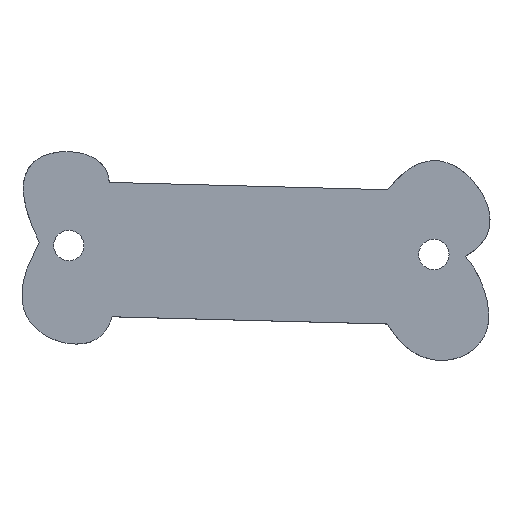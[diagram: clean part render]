
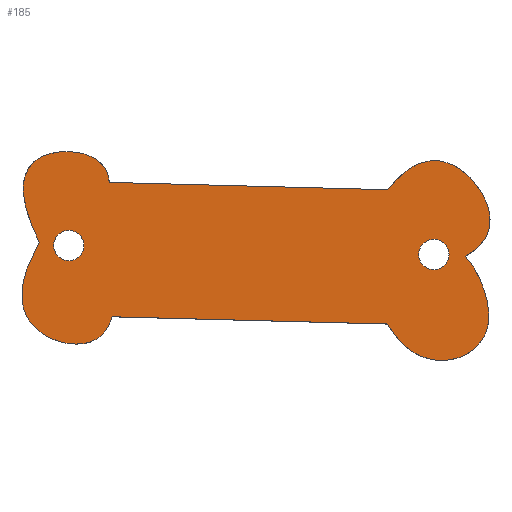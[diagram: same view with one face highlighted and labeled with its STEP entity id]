
A CAD part, top view. The second image highlights one B-rep face of the part: STEP entity #185.
In plain terms, the highlighted planar face has unit normal (0, 0, 1).
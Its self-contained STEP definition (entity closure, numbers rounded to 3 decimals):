
#15=FACE_BOUND('',#54,.T.);
#16=FACE_BOUND('',#55,.T.);
#21=PLANE('',#209);
#24=(
BOUNDED_CURVE()
B_SPLINE_CURVE(5,(#323,#324,#325,#326,#327,#328,#329,#330,#331,#332,#333,
#334,#335,#336,#337,#338,#339,#340,#341,#342),.UNSPECIFIED.,.F.,.F.)
B_SPLINE_CURVE_WITH_KNOTS((6,1,1,1,1,1,1,1,1,1,1,1,1,1,1,6),(-1.,-0.933,
-0.867,-0.8,-0.733,-0.667,-0.6,-0.533,
-0.467,-0.4,-0.333,-0.267,-0.2,-0.133,
-0.067,0.),.UNSPECIFIED.)
CURVE()
GEOMETRIC_REPRESENTATION_ITEM()
RATIONAL_B_SPLINE_CURVE((1.,1.,1.,1.,1.,1.,1.,1.,1.,1.,1.,1.,1.,1.,1.,1.,
1.,1.,1.,1.))
REPRESENTATION_ITEM('')
);
#26=(
BOUNDED_CURVE()
B_SPLINE_CURVE(5,(#412,#413,#414,#415,#416,#417,#418,#419,#420,#421,#422,
#423,#424,#425,#426,#427,#428,#429,#430,#431),.UNSPECIFIED.,.F.,.F.)
B_SPLINE_CURVE_WITH_KNOTS((6,1,1,1,1,1,1,1,1,1,1,1,1,1,1,6),(-1.,-0.933,
-0.867,-0.8,-0.733,-0.667,-0.6,-0.533,
-0.467,-0.4,-0.333,-0.267,-0.2,-0.133,
-0.067,0.),.UNSPECIFIED.)
CURVE()
GEOMETRIC_REPRESENTATION_ITEM()
RATIONAL_B_SPLINE_CURVE((1.,1.,1.,1.,1.,1.,1.,1.,1.,1.,1.,1.,1.,1.,1.,1.,
1.,1.,1.,1.))
REPRESENTATION_ITEM('')
);
#28=(
BOUNDED_CURVE()
B_SPLINE_CURVE(5,(#495,#496,#497,#498,#499,#500,#501,#502,#503,#504,#505,
#506,#507,#508,#509,#510,#511,#512,#513,#514),.UNSPECIFIED.,.F.,.F.)
B_SPLINE_CURVE_WITH_KNOTS((6,1,1,1,1,1,1,1,1,1,1,1,1,1,1,6),(-1.,-0.933,
-0.867,-0.8,-0.733,-0.667,-0.6,-0.533,
-0.467,-0.4,-0.333,-0.267,-0.2,-0.133,
-0.067,0.),.UNSPECIFIED.)
CURVE()
GEOMETRIC_REPRESENTATION_ITEM()
RATIONAL_B_SPLINE_CURVE((1.,1.,1.,1.,1.,1.,1.,1.,1.,1.,1.,1.,1.,1.,1.,1.,
1.,1.,1.,1.))
REPRESENTATION_ITEM('')
);
#30=(
BOUNDED_CURVE()
B_SPLINE_CURVE(5,(#582,#583,#584,#585,#586,#587,#588,#589,#590,#591,#592,
#593,#594,#595,#596,#597,#598,#599,#600,#601),.UNSPECIFIED.,.F.,.F.)
B_SPLINE_CURVE_WITH_KNOTS((6,1,1,1,1,1,1,1,1,1,1,1,1,1,1,6),(0.,0.067,
0.133,0.2,0.267,0.333,0.4,0.467,
0.533,0.6,0.667,0.733,0.8,0.867,
0.933,1.),.UNSPECIFIED.)
CURVE()
GEOMETRIC_REPRESENTATION_ITEM()
RATIONAL_B_SPLINE_CURVE((1.,1.,1.,1.,1.,1.,1.,1.,1.,1.,1.,1.,1.,1.,1.,1.,
1.,1.,1.,1.))
REPRESENTATION_ITEM('')
);
#43=FACE_OUTER_BOUND('',#53,.T.);
#53=EDGE_LOOP('',(#159,#160,#161,#162,#163,#164));
#54=EDGE_LOOP('',(#165));
#55=EDGE_LOOP('',(#166));
#64=LINE('',#348,#76);
#69=LINE('',#520,#81);
#76=VECTOR('',#232,10.);
#81=VECTOR('',#239,10.);
#83=CIRCLE('',#202,0.75);
#85=CIRCLE('',#205,0.75);
#87=VERTEX_POINT('',#247);
#89=VERTEX_POINT('',#253);
#93=VERTEX_POINT('',#320);
#94=VERTEX_POINT('',#322);
#96=VERTEX_POINT('',#347);
#98=VERTEX_POINT('',#411);
#100=VERTEX_POINT('',#494);
#102=VERTEX_POINT('',#519);
#103=EDGE_CURVE('',#87,#87,#83,.T.);
#106=EDGE_CURVE('',#89,#89,#85,.T.);
#111=EDGE_CURVE('',#94,#93,#24,.T.);
#114=EDGE_CURVE('',#96,#94,#64,.T.);
#117=EDGE_CURVE('',#98,#96,#26,.T.);
#120=EDGE_CURVE('',#100,#98,#28,.T.);
#123=EDGE_CURVE('',#102,#100,#69,.T.);
#126=EDGE_CURVE('',#93,#102,#30,.T.);
#159=ORIENTED_EDGE('',*,*,#126,.T.);
#160=ORIENTED_EDGE('',*,*,#123,.T.);
#161=ORIENTED_EDGE('',*,*,#120,.T.);
#162=ORIENTED_EDGE('',*,*,#117,.T.);
#163=ORIENTED_EDGE('',*,*,#114,.T.);
#164=ORIENTED_EDGE('',*,*,#111,.T.);
#165=ORIENTED_EDGE('',*,*,#103,.T.);
#166=ORIENTED_EDGE('',*,*,#106,.T.);
#185=ADVANCED_FACE('',(#43,#15,#16),#21,.T.);
#202=AXIS2_PLACEMENT_3D('',#248,#215,#216);
#205=AXIS2_PLACEMENT_3D('',#254,#222,#223);
#209=AXIS2_PLACEMENT_3D('',#602,#241,#242);
#215=DIRECTION('center_axis',(0.,0.,-1.));
#216=DIRECTION('ref_axis',(-1.,0.,0.));
#222=DIRECTION('center_axis',(0.,0.,-1.));
#223=DIRECTION('ref_axis',(-1.,0.,0.));
#232=DIRECTION('',(-1.,0.026,0.));
#239=DIRECTION('',(1.,-0.026,0.));
#241=DIRECTION('center_axis',(0.,0.,1.));
#242=DIRECTION('ref_axis',(1.,0.,0.));
#247=CARTESIAN_POINT('',(27.279,-25.874,1.5));
#248=CARTESIAN_POINT('Origin',(26.529,-25.874,1.5));
#253=CARTESIAN_POINT('',(45.279,-26.313,1.5));
#254=CARTESIAN_POINT('Origin',(44.529,-26.313,1.5));
#320=CARTESIAN_POINT('',(25.076,-25.713,1.5));
#322=CARTESIAN_POINT('',(28.525,-22.758,1.5));
#323=CARTESIAN_POINT('Ctrl Pts',(28.525,-22.758,1.5));
#324=CARTESIAN_POINT('Ctrl Pts',(28.52,-22.665,1.5));
#325=CARTESIAN_POINT('Ctrl Pts',(28.499,-22.486,1.5));
#326=CARTESIAN_POINT('Ctrl Pts',(28.433,-22.237,1.5));
#327=CARTESIAN_POINT('Ctrl Pts',(28.276,-21.944,1.5));
#328=CARTESIAN_POINT('Ctrl Pts',(27.967,-21.647,1.5));
#329=CARTESIAN_POINT('Ctrl Pts',(27.55,-21.421,1.5));
#330=CARTESIAN_POINT('Ctrl Pts',(27.04,-21.274,1.5));
#331=CARTESIAN_POINT('Ctrl Pts',(26.471,-21.215,1.5));
#332=CARTESIAN_POINT('Ctrl Pts',(25.885,-21.251,1.5));
#333=CARTESIAN_POINT('Ctrl Pts',(25.333,-21.394,1.5));
#334=CARTESIAN_POINT('Ctrl Pts',(24.861,-21.652,1.5));
#335=CARTESIAN_POINT('Ctrl Pts',(24.51,-22.03,1.5));
#336=CARTESIAN_POINT('Ctrl Pts',(24.302,-22.53,1.5));
#337=CARTESIAN_POINT('Ctrl Pts',(24.25,-23.149,1.5));
#338=CARTESIAN_POINT('Ctrl Pts',(24.356,-23.884,1.5));
#339=CARTESIAN_POINT('Ctrl Pts',(24.567,-24.561,1.5));
#340=CARTESIAN_POINT('Ctrl Pts',(24.794,-25.118,1.5));
#341=CARTESIAN_POINT('Ctrl Pts',(24.977,-25.511,1.5));
#342=CARTESIAN_POINT('Ctrl Pts',(25.076,-25.713,1.5));
#347=CARTESIAN_POINT('',(42.244,-23.118,1.5));
#348=CARTESIAN_POINT('',(28.525,-22.758,1.5));
#411=CARTESIAN_POINT('',(46.072,-26.404,1.5));
#412=CARTESIAN_POINT('Ctrl Pts',(46.072,-26.404,1.5));
#413=CARTESIAN_POINT('Ctrl Pts',(46.195,-26.336,1.5));
#414=CARTESIAN_POINT('Ctrl Pts',(46.427,-26.195,1.5));
#415=CARTESIAN_POINT('Ctrl Pts',(46.729,-25.966,1.5));
#416=CARTESIAN_POINT('Ctrl Pts',(47.038,-25.627,1.5));
#417=CARTESIAN_POINT('Ctrl Pts',(47.268,-25.147,1.5));
#418=CARTESIAN_POINT('Ctrl Pts',(47.339,-24.616,1.5));
#419=CARTESIAN_POINT('Ctrl Pts',(47.254,-24.047,1.5));
#420=CARTESIAN_POINT('Ctrl Pts',(47.026,-23.462,1.5));
#421=CARTESIAN_POINT('Ctrl Pts',(46.675,-22.898,1.5));
#422=CARTESIAN_POINT('Ctrl Pts',(46.228,-22.394,1.5));
#423=CARTESIAN_POINT('Ctrl Pts',(45.712,-21.994,1.5));
#424=CARTESIAN_POINT('Ctrl Pts',(45.155,-21.733,1.5));
#425=CARTESIAN_POINT('Ctrl Pts',(44.577,-21.64,1.5));
#426=CARTESIAN_POINT('Ctrl Pts',(43.99,-21.726,1.5));
#427=CARTESIAN_POINT('Ctrl Pts',(43.404,-21.995,1.5));
#428=CARTESIAN_POINT('Ctrl Pts',(42.938,-22.356,1.5));
#429=CARTESIAN_POINT('Ctrl Pts',(42.59,-22.706,1.5));
#430=CARTESIAN_POINT('Ctrl Pts',(42.359,-22.975,1.5));
#431=CARTESIAN_POINT('Ctrl Pts',(42.244,-23.118,1.5));
#494=CARTESIAN_POINT('',(42.244,-29.742,1.5));
#495=CARTESIAN_POINT('Ctrl Pts',(42.244,-29.742,1.5));
#496=CARTESIAN_POINT('Ctrl Pts',(42.336,-29.896,1.5));
#497=CARTESIAN_POINT('Ctrl Pts',(42.524,-30.187,1.5));
#498=CARTESIAN_POINT('Ctrl Pts',(42.824,-30.576,1.5));
#499=CARTESIAN_POINT('Ctrl Pts',(43.26,-30.998,1.5));
#500=CARTESIAN_POINT('Ctrl Pts',(43.86,-31.36,1.5));
#501=CARTESIAN_POINT('Ctrl Pts',(44.508,-31.551,1.5));
#502=CARTESIAN_POINT('Ctrl Pts',(45.183,-31.568,1.5));
#503=CARTESIAN_POINT('Ctrl Pts',(45.851,-31.411,1.5));
#504=CARTESIAN_POINT('Ctrl Pts',(46.453,-31.085,1.5));
#505=CARTESIAN_POINT('Ctrl Pts',(46.922,-30.606,1.5));
#506=CARTESIAN_POINT('Ctrl Pts',(47.206,-30.001,1.5));
#507=CARTESIAN_POINT('Ctrl Pts',(47.278,-29.308,1.5));
#508=CARTESIAN_POINT('Ctrl Pts',(47.179,-28.593,1.5));
#509=CARTESIAN_POINT('Ctrl Pts',(46.984,-27.92,1.5));
#510=CARTESIAN_POINT('Ctrl Pts',(46.724,-27.319,1.5));
#511=CARTESIAN_POINT('Ctrl Pts',(46.482,-26.908,1.5));
#512=CARTESIAN_POINT('Ctrl Pts',(46.283,-26.64,1.5));
#513=CARTESIAN_POINT('Ctrl Pts',(46.143,-26.48,1.5));
#514=CARTESIAN_POINT('Ctrl Pts',(46.072,-26.404,1.5));
#519=CARTESIAN_POINT('',(28.67,-29.386,1.5));
#520=CARTESIAN_POINT('',(28.67,-29.386,1.5));
#582=CARTESIAN_POINT('Ctrl Pts',(25.076,-25.713,1.5));
#583=CARTESIAN_POINT('Ctrl Pts',(24.973,-25.893,1.5));
#584=CARTESIAN_POINT('Ctrl Pts',(24.783,-26.247,1.5));
#585=CARTESIAN_POINT('Ctrl Pts',(24.543,-26.757,1.5));
#586=CARTESIAN_POINT('Ctrl Pts',(24.315,-27.396,1.5));
#587=CARTESIAN_POINT('Ctrl Pts',(24.185,-28.122,1.5));
#588=CARTESIAN_POINT('Ctrl Pts',(24.213,-28.772,1.5));
#589=CARTESIAN_POINT('Ctrl Pts',(24.394,-29.342,1.5));
#590=CARTESIAN_POINT('Ctrl Pts',(24.719,-29.825,1.5));
#591=CARTESIAN_POINT('Ctrl Pts',(25.165,-30.214,1.5));
#592=CARTESIAN_POINT('Ctrl Pts',(25.696,-30.504,1.5));
#593=CARTESIAN_POINT('Ctrl Pts',(26.269,-30.687,1.5));
#594=CARTESIAN_POINT('Ctrl Pts',(26.839,-30.76,1.5));
#595=CARTESIAN_POINT('Ctrl Pts',(27.368,-30.717,1.5));
#596=CARTESIAN_POINT('Ctrl Pts',(27.828,-30.559,1.5));
#597=CARTESIAN_POINT('Ctrl Pts',(28.205,-30.287,1.5));
#598=CARTESIAN_POINT('Ctrl Pts',(28.435,-29.98,1.5));
#599=CARTESIAN_POINT('Ctrl Pts',(28.568,-29.702,1.5));
#600=CARTESIAN_POINT('Ctrl Pts',(28.639,-29.495,1.5));
#601=CARTESIAN_POINT('Ctrl Pts',(28.67,-29.386,1.5));
#602=CARTESIAN_POINT('Origin',(35.762,-26.391,1.5));
